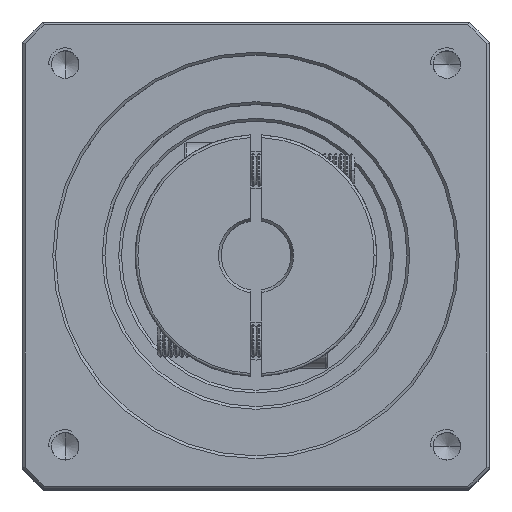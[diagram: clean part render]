
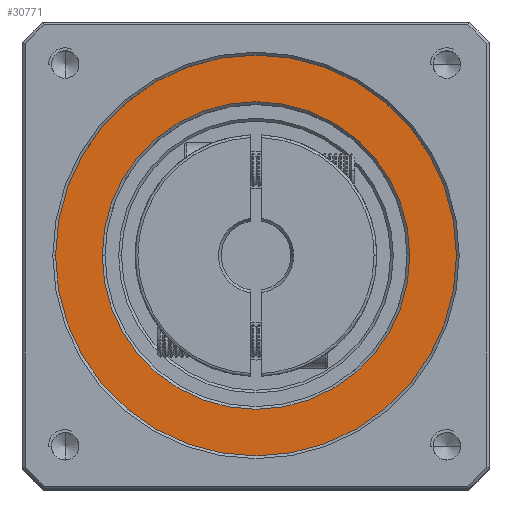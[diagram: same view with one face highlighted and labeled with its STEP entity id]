
A CAD part, top view. The second image highlights one B-rep face of the part: STEP entity #30771.
In plain terms, the highlighted planar face has unit normal (0, 0, 1).
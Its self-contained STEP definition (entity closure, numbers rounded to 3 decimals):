
#2808 = AXIS2_PLACEMENT_3D ( 'NONE', #21321, #84039, #30375 ) ;
#2836 = FACE_OUTER_BOUND ( 'NONE', #90247, .T. ) ;
#3765 = CARTESIAN_POINT ( 'NONE',  ( 52.696, 4.37, 99.75 ) ) ;
#5736 = DIRECTION ( 'NONE',  ( 1., 0., 0. ) ) ;
#11442 = EDGE_CURVE ( 'NONE', #66322, #83147, #41856, .T. ) ;
#14269 = CARTESIAN_POINT ( 'NONE',  ( 24.696, 4.37, 99.75 ) ) ;
#18282 = AXIS2_PLACEMENT_3D ( 'NONE', #14269, #76972, #23255 ) ;
#20018 = AXIS2_PLACEMENT_3D ( 'NONE', #32318, #94948, #41278 ) ;
#21321 = CARTESIAN_POINT ( 'NONE',  ( 24.696, 4.37, 99.75 ) ) ;
#23255 = DIRECTION ( 'NONE',  ( 1., 0., 0. ) ) ;
#26639 = FACE_BOUND ( 'NONE', #86009, .T. ) ;
#30375 = DIRECTION ( 'NONE',  ( 1., 0., 0. ) ) ;
#30771 = ADVANCED_FACE ( 'NONE', ( #2836, #26639 ), #103653, .T. ) ;
#31703 = EDGE_CURVE ( 'NONE', #44715, #51438, #103186, .T. ) ;
#32318 = CARTESIAN_POINT ( 'NONE',  ( 24.696, 4.37, 99.75 ) ) ;
#41278 = DIRECTION ( 'NONE',  ( 1., 0., 0. ) ) ;
#41856 = CIRCLE ( 'NONE', #94640, 36.5 ) ;
#44715 = VERTEX_POINT ( 'NONE', #106166 ) ;
#48909 = CARTESIAN_POINT ( 'NONE',  ( 24.696, 4.37, 99.75 ) ) ;
#51438 = VERTEX_POINT ( 'NONE', #3765 ) ;
#57971 = DIRECTION ( 'NONE',  ( 1., 0., 0. ) ) ;
#59418 = DIRECTION ( 'NONE',  ( 0., 0., 1. ) ) ;
#62194 = CIRCLE ( 'NONE', #18282, 36.5 ) ;
#62741 = EDGE_CURVE ( 'NONE', #83147, #66322, #62194, .T. ) ;
#64097 = CARTESIAN_POINT ( 'NONE',  ( 61.196, 4.37, 99.75 ) ) ;
#66322 = VERTEX_POINT ( 'NONE', #64097 ) ;
#70660 = EDGE_CURVE ( 'NONE', #51438, #44715, #112484, .T. ) ;
#76326 = AXIS2_PLACEMENT_3D ( 'NONE', #48909, #111741, #57971 ) ;
#76972 = DIRECTION ( 'NONE',  ( 0., 0., 1. ) ) ;
#83147 = VERTEX_POINT ( 'NONE', #107142 ) ;
#84039 = DIRECTION ( 'NONE',  ( 0., 0., -1. ) ) ;
#86009 = EDGE_LOOP ( 'NONE', ( #101366, #104022 ) ) ;
#90247 = EDGE_LOOP ( 'NONE', ( #115061, #116048 ) ) ;
#94640 = AXIS2_PLACEMENT_3D ( 'NONE', #113168, #59418, #5736 ) ;
#94948 = DIRECTION ( 'NONE',  ( 0., 0., 1. ) ) ;
#101366 = ORIENTED_EDGE ( 'NONE', *, *, #70660, .T. ) ;
#103186 = CIRCLE ( 'NONE', #2808, 28. ) ;
#103653 = PLANE ( 'NONE',  #20018 ) ;
#104022 = ORIENTED_EDGE ( 'NONE', *, *, #31703, .T. ) ;
#106166 = CARTESIAN_POINT ( 'NONE',  ( -3.304, 4.37, 99.75 ) ) ;
#107142 = CARTESIAN_POINT ( 'NONE',  ( -11.804, 4.37, 99.75 ) ) ;
#111741 = DIRECTION ( 'NONE',  ( 0., 0., -1. ) ) ;
#112484 = CIRCLE ( 'NONE', #76326, 28. ) ;
#113168 = CARTESIAN_POINT ( 'NONE',  ( 24.696, 4.37, 99.75 ) ) ;
#115061 = ORIENTED_EDGE ( 'NONE', *, *, #11442, .T. ) ;
#116048 = ORIENTED_EDGE ( 'NONE', *, *, #62741, .T. ) ;
